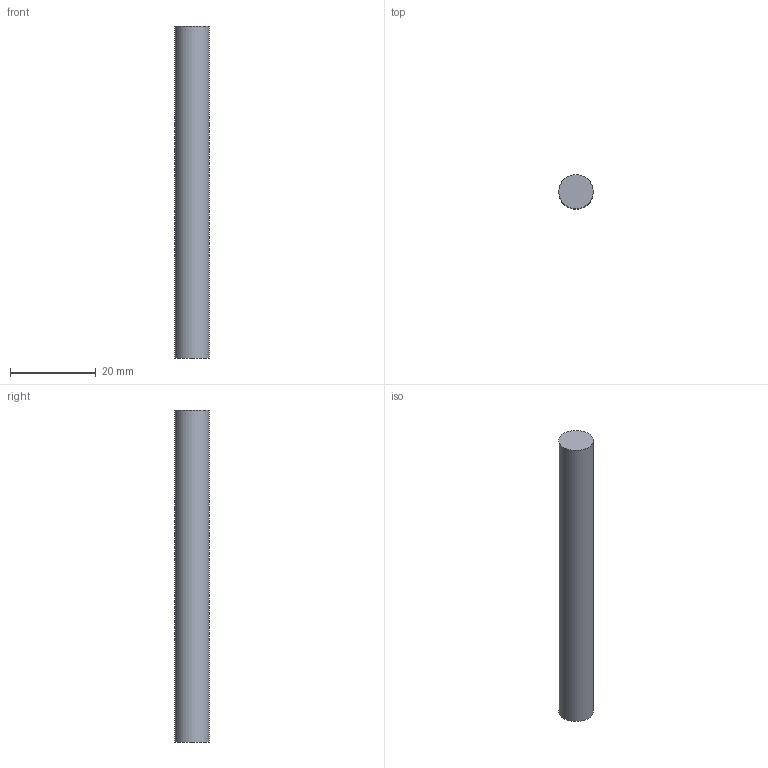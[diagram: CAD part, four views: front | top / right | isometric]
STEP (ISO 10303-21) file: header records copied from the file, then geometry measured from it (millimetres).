
FILE_DESCRIPTION(('FreeCAD Model'),'2;1');
FILE_NAME('Open CASCADE Shape Model','2026-10-30T14:44:59',('FreeCAD'),( 'FreeCAD'),'Open CASCADE STEP processor 7.8','FreeCAD','Unknown');
FILE_SCHEMA(('AUTOMOTIVE_DESIGN { 1 0 10303 214 1 1 1 1 }'));
Length unit declared in the file: millimetre
Products named in the file (1): Open CASCADE STEP translator 7.8 6
Bounding box: 8 x 8 x 77.25 mm (x, y, z)
Volume: 3883 mm3; surface area: 2042 mm2
Topology: 1 solids, 1 shells, 3 faces, 3 edges, 2 vertices
Faces by surface type: plane 2, cylinder 1
Full cylindrical faces by diameter (mm): 8 x1
Entity records: 69 total; most frequent: DIRECTION 13, CARTESIAN_POINT 9, AXIS2_PLACEMENT_3D 6, ORIENTED_EDGE 6, ADVANCED_FACE 3, FACE_BOUND 3, EDGE_LOOP 3, EDGE_CURVE 3
